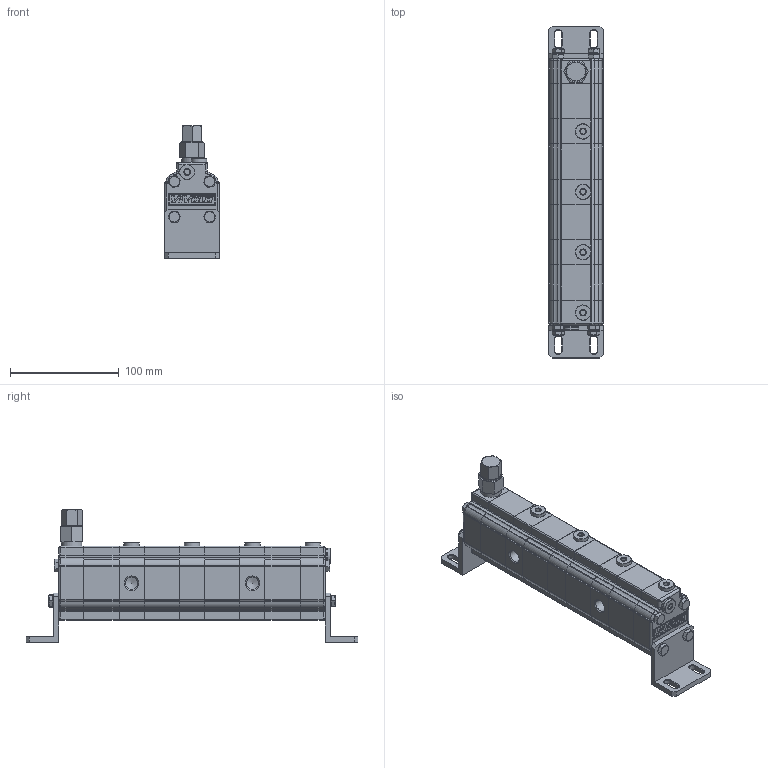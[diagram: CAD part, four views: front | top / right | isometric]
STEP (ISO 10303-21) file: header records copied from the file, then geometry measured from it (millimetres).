
FILE_DESCRIPTION(/* description */ ('Unknown'),/* implementation_level */ '2;1');
FILE_NAME(/* name */ '9RS04-05',/* time_stamp */ '2020-04-10T14:00:57+02:00',/* author */ ('Unknown'),/* organization */ ('Unknown'),/* preprocessor_version */ 'ST-DEVELOPER v16.7',/* originating_system */ 'DEX',/* authorisation */ $);
FILE_SCHEMA (('AUTOMOTIVE_DESIGN {1 0 10303 214 3 1 1}'));
Length unit declared in the file: millimetre
Products named in the file (1): RV-0S
Bounding box: 50 x 305 x 121.75 mm (x, y, z)
Volume: 735407.1 mm3; surface area: 80940.3 mm2
Topology: 1 solids, 3 shells, 1096 faces, 2900 edges, 1825 vertices
Faces by surface type: plane 492, cylinder 449, cone 75, bspline 48, torus 32
Full cylindrical faces by diameter (mm): 6.5 x1, 7 x1, 8.1 x1, 10 x9, 11.445 x14, 13.5 x1, 14 x6, 14.2 x4, 18.8 x1, 19 x1, 20 x1
Entity records: 44511 total; most frequent: CARTESIAN_POINT 10069, DIRECTION 5720, ORIENTED_EDGE 5488, EDGE_CURVE 2744, AXIS2_PLACEMENT_3D 2111, VERTEX_POINT 1782, LINE 1498, VECTOR 1498
